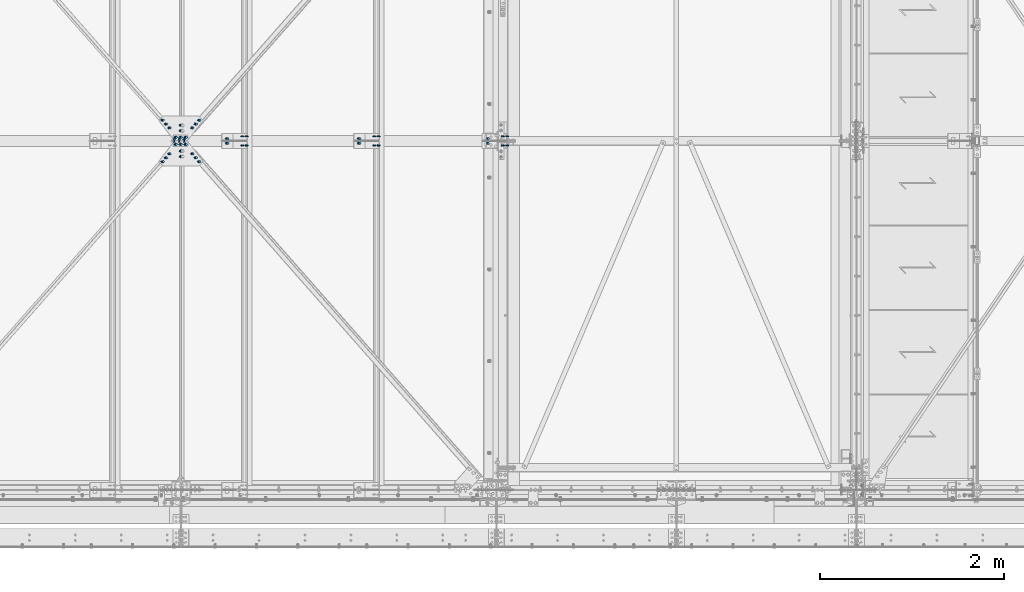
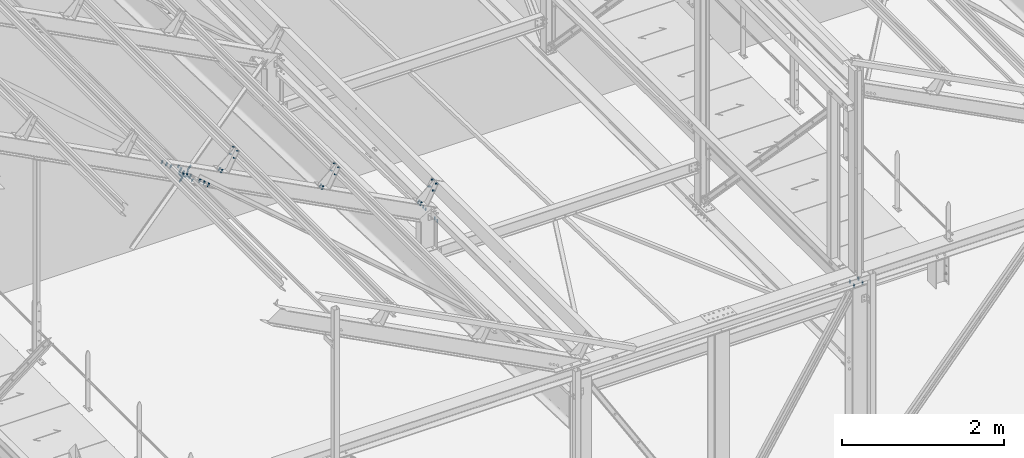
# One storey, part 163 of 362: 19 mechanical fasteners.
"""IFC2X3 building model written with IfcOpenShell, lengths in millimetres."""

from ifc_helpers import new_model, si_unit, frame, frame_2d, origin_with_axes, origin_2d_with_axis, place, context, subcontext, project, spatial, polyline, circle_curve, parameter, trimmed, segment, composite_curve, circle, outline, extrude, source, transform, mapped, material, type_object, element, save


model = new_model("IFC2X3")

# Units and contexts
model_context = context("Model", 3, precision=1e-05, world=origin_with_axes())
body_context = subcontext(model_context, "Body", "Model", "MODEL_VIEW")
ifc_project = project(units=[si_unit("LENGTHUNIT", "METRE", prefix="MILLI"), si_unit("AREAUNIT", "SQUARE_METRE"), si_unit("VOLUMEUNIT", "CUBIC_METRE"), si_unit("MASSUNIT", "GRAM", prefix="KILO"), si_unit("TIMEUNIT", "SECOND"), si_unit("PLANEANGLEUNIT", "RADIAN"), si_unit("SOLIDANGLEUNIT", "STERADIAN"), si_unit("THERMODYNAMICTEMPERATUREUNIT", "DEGREE_CELSIUS"), si_unit("LUMINOUSINTENSITYUNIT", "LUMEN")], contexts=[model_context])

# Site, building, storey
site_placement = place(None, origin_with_axes())
site = spatial("IfcSite", under=ifc_project, at=site_placement, Name="Undefined", CompositionType="ELEMENT")
building_placement = place(site_placement, origin_with_axes())
building = spatial("IfcBuilding", under=site, at=building_placement, Name="Undefined", CompositionType="ELEMENT")
storey_placement = place(building_placement, origin_with_axes())
storey = spatial("IfcBuildingStorey", under=building, at=storey_placement, Name="Undefined", CompositionType="ELEMENT", Elevation=0.0)

# Mechanical fasteners
ifc_material_1 = material(Name="8.8-SB-ZINGUE")
mechanical_fastener_type = type_object("IfcMechanicalFastenerType", Name="Bolt assembly")
shared_shape_1 = source(origin_with_axes(), body_context, "Body", "SweptSolid", [
    extrude(circle(Radius=7.0, at=origin_2d_with_axis()), frame((0.0, -0.100011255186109, 0.0), z_axis=(0.0, 1.0, 0.0), x_axis=(1.0, 0.0, 0.0)), (0.0, 0.0, 1.0), 3.1),
    extrude(circle(Radius=7.0, at=origin_2d_with_axis()), frame((0.0, -9.9, 0.0), z_axis=(0.0, 1.0, 0.0), x_axis=(1.0, 0.0, 0.0)), (0.0, 0.0, 1.0), 10.0),
    extrude(outline(polyline([(10.39230484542, 0.0), (5.19615242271, 9.00000000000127), (-5.19615242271, 9.00000000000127), (-10.39230484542, 0.0), (-5.19615242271, -9.00000000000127), (5.19615242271, -9.00000000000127), (10.39230484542, 0.0)])), frame((0.0, -17.92, 0.0), z_axis=(0.0, 1.0, 0.0), x_axis=(1.0, 0.0, 0.0)), (0.0, 0.0, 1.0), 7.92),
    extrude(circle(Radius=6.0, at=origin_2d_with_axis()), frame((0.0, -10.0000010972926, 0.0), z_axis=(0.0, 1.0, 0.0), x_axis=(1.0, 0.0, 0.0)), (0.0, 0.0, 1.0), 30.0),
    extrude(outline(polyline([(11.5008173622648, 0.0), (5.7504086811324, 9.96000000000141), (-5.7504086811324, 9.96000000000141), (-11.5008173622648, 0.0), (-5.7504086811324, -9.96000000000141), (5.7504086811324, -9.96000000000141), (11.5008173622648, 0.0)])), frame((0.0, 3.00000067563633, 0.0), z_axis=(0.0, 1.0, 0.0), x_axis=(1.0, 0.0, 0.0)), (0.0, 0.0, 1.0), 7.92),
])
mechanical_fastener_1_placement = place(storey_placement, frame((19620.3252333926, 3849.9999403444, 8812.98460901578), z_axis=(0.0, 1.0, 0.0), x_axis=(0.463528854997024, 6.99999093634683e-09, 0.886081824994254)))
element("IfcMechanicalFastener", 1, at=mechanical_fastener_1_placement, inside=storey, type_object=mechanical_fastener_type, material=ifc_material_1, Name="Bolt assembly", NominalDiameter=12.0, NominalLength=30.0, context=body_context, shape_type="MappedRepresentation", body=[
    mapped(shared_shape_1, transform((0.0, 0.0, 0.0))),
    mapped(shared_shape_1, transform((99.9999999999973, -1.63709046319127e-11, 7.73070496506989e-12))),
])
shared_shape_2 = source(origin_with_axes(), body_context, "Body", "SweptSolid", [
    extrude(circle(Radius=7.0, at=origin_2d_with_axis()), frame((0.0, -0.10007666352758, 0.0), z_axis=(0.0, 1.0, 0.0), x_axis=(1.0, 0.0, 0.0)), (0.0, 0.0, 1.0), 3.1),
    extrude(circle(Radius=7.0, at=origin_2d_with_axis()), frame((0.0, -9.9, 0.0), z_axis=(0.0, 1.0, 0.0), x_axis=(1.0, 0.0, 0.0)), (0.0, 0.0, 1.0), 10.0),
    extrude(outline(polyline([(10.39230484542, 0.0), (5.19615242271, 9.00000000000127), (-5.19615242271, 9.00000000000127), (-10.39230484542, 0.0), (-5.19615242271, -9.00000000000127), (5.19615242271, -9.00000000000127), (10.39230484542, 0.0)])), frame((0.0, -17.92, 0.0), z_axis=(0.0, 1.0, 0.0), x_axis=(1.0, 0.0, 0.0)), (0.0, 0.0, 1.0), 7.92),
    extrude(circle(Radius=6.0, at=origin_2d_with_axis()), frame((0.0, -10.0000010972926, 0.0), z_axis=(0.0, 1.0, 0.0), x_axis=(1.0, 0.0, 0.0)), (0.0, 0.0, 1.0), 30.0),
    extrude(outline(polyline([(11.5008173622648, 0.0), (5.7504086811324, 9.96000000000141), (-5.7504086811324, 9.96000000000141), (-11.5008173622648, 0.0), (-5.7504086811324, -9.96000000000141), (5.7504086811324, -9.96000000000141), (11.5008173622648, 0.0)])), frame((0.0, 3.00000067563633, 0.0), z_axis=(0.0, 1.0, 0.0), x_axis=(1.0, 0.0, 0.0)), (0.0, 0.0, 1.0), 7.92),
])
mechanical_fastener_2_placement = place(storey_placement, frame((19620.3252333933, 3750.0000596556, 8812.98460901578), z_axis=(0.0, 1.0, 0.0), x_axis=(0.463528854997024, 6.99999093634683e-09, 0.886081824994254)))
element("IfcMechanicalFastener", 2, at=mechanical_fastener_2_placement, inside=storey, type_object=mechanical_fastener_type, material=ifc_material_1, Name="Bolt assembly", NominalDiameter=12.0, NominalLength=30.0, context=body_context, shape_type="MappedRepresentation", body=[
    mapped(shared_shape_2, transform((0.0, 0.0, 0.0))),
    mapped(shared_shape_2, transform((99.9999999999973, -1.63709046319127e-11, 7.73070496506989e-12))),
])
ifc_material_2 = material(Name="#_SB-8.8-ZINGUE")
shared_shape_3 = source(origin_with_axes(), body_context, "Body", "SweptSolid", [
    extrude(circle(Radius=9.0, at=origin_2d_with_axis()), frame((0.0, -5.8999542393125, 0.0), z_axis=(0.0, 1.0, 0.0), x_axis=(1.0, 0.0, 0.0)), (0.0, 0.0, 1.0), 6.0),
    extrude(circle(Radius=9.0, at=origin_2d_with_axis()), frame((0.0, -0.100011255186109, 0.0), z_axis=(0.0, 1.0, 0.0), x_axis=(1.0, 0.0, 0.0)), (0.0, 0.0, 1.0), 6.1),
    extrude(outline(polyline([(13.85640646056, 0.0), (6.92820323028, 12.0000000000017), (-6.92820323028, 12.0000000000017), (-13.85640646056, 0.0), (-6.92820323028, -12.0000000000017), (6.92820323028, -12.0000000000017), (13.85640646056, 0.0)])), frame((0.0, -16.5599735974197, 0.0), z_axis=(0.0, 1.0, 0.0), x_axis=(1.0, 0.0, 0.0)), (0.0, 0.0, 1.0), 10.56),
    extrude(circle(Radius=8.0, at=origin_2d_with_axis()), frame((0.0, -5.9999542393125, 0.0), z_axis=(0.0, 1.0, 0.0), x_axis=(1.0, 0.0, 0.0)), (0.0, 0.0, 1.0), 40.0),
    extrude(outline(polyline([(15.3344231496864, 0.0), (7.6672115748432, 13.2800000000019), (-7.6672115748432, 13.2800000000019), (-15.3344231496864, 0.0), (-7.6672115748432, -13.2800000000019), (7.6672115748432, -13.2800000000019), (15.3344231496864, 0.0)])), frame((0.0, 6.0, 0.0), z_axis=(0.0, 1.0, 0.0), x_axis=(1.0, 0.0, 0.0)), (0.0, 0.0, 1.0), 10.56),
])
for number, where, z_axis, x_axis, name in (
    (3, (16239.1604463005, 3940.99054480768, 10209.3179633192), (-0.628485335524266, 0.704921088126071, 0.328774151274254), (0.624617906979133, 0.7092857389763, -0.326750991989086), "Bolt assembly"),
    (4, (15990.8396031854, 3940.99054268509, 10339.219907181), (-0.628485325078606, -0.704921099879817, 0.32877414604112), (-0.624617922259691, 0.70928572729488, 0.326750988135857), "Bolt assembly"),
    (5, (15990.8396913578, 3659.00955618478, 10339.2198632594), (0.628485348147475, -0.704921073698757, -0.328774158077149), (-0.624617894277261, -0.709285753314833, 0.326750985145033), "Bolt assembly"),
    (6, (16239.1603544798, 3659.00955876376, 10209.3180135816), (0.628485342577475, 0.704921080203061, -0.328774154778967), (0.624617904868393, -0.709285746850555, -0.326750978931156), "Bolt assembly"),
):
    element("IfcMechanicalFastener", number, at=place(storey_placement, frame(where, z_axis=z_axis, x_axis=x_axis)), inside=storey, type_object=mechanical_fastener_type, material=ifc_material_2, Name=name, NominalDiameter=16.0, NominalLength=40.0, context=body_context, shape_type="MappedRepresentation", body=[
        mapped(shared_shape_3, transform((0.0, 0.0, 0.0))),
        mapped(shared_shape_3, transform((60.0, 0.0, 0.0))),
        mapped(shared_shape_3, transform((120.0, 0.0, 0.0))),
    ])
shared_shape_4 = source(origin_with_axes(), body_context, "Body", "SweptSolid", [
    extrude(circle(Radius=9.0, at=origin_2d_with_axis()), frame((0.0, 0.1, 0.0), z_axis=(0.0, 1.0, 0.0), x_axis=(1.0, 0.0, 0.0)), (0.0, 0.0, 1.0), 6.0),
    extrude(circle(Radius=9.0, at=origin_2d_with_axis()), frame((0.0, 5.90002706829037, 0.0), z_axis=(0.0, 1.0, 0.0), x_axis=(1.0, 0.0, 0.0)), (0.0, 0.0, 1.0), 6.1),
    extrude(outline(polyline([(13.85640646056, 0.0), (6.92820323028, 12.0000000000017), (-6.92820323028, 12.0000000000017), (-13.85640646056, 0.0), (-6.92820323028, -12.0000000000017), (6.92820323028, -12.0000000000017), (13.85640646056, 0.0)])), frame((0.0, -10.5600019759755, 0.0), z_axis=(0.0, 1.0, 0.0), x_axis=(1.0, 0.0, 0.0)), (0.0, 0.0, 1.0), 10.56),
    extrude(circle(Radius=8.0, at=origin_2d_with_axis()), frame((0.0, 0.0, 0.0), z_axis=(0.0, 1.0, 0.0), x_axis=(1.0, 0.0, 0.0)), (0.0, 0.0, 1.0), 40.0),
    extrude(outline(polyline([(15.3344231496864, 0.0), (7.6672115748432, 13.2800000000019), (-7.6672115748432, 13.2800000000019), (-15.3344231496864, 0.0), (-7.6672115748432, -13.2800000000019), (7.6672115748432, -13.2800000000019), (15.3344231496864, 0.0)])), frame((0.0, 12.0000270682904, 0.0), z_axis=(0.0, 1.0, 0.0), x_axis=(1.0, 0.0, 0.0)), (0.0, 0.0, 1.0), 10.56),
])
mechanical_fastener_3_placement = place(storey_placement, frame((16114.9966925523, 3838.49994894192, 10274.2706792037), z_axis=(0.886081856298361, 3.500000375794e-08, -0.463528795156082), x_axis=(0.0, -1.0, 0.0)))
element("IfcMechanicalFastener", 7, at=mechanical_fastener_3_placement, inside=storey, type_object=mechanical_fastener_type, material=ifc_material_2, Name="Bolt assembly", NominalDiameter=16.0, NominalLength=40.0, context=body_context, shape_type="MappedRepresentation", body=[
    mapped(shared_shape_4, transform((0.0, 0.0, -60.0))),
    mapped(shared_shape_4, transform((0.0, 0.0, 0.0))),
    mapped(shared_shape_4, transform((0.0, 0.0, 60.0))),
])
shared_shape_5 = source(origin_with_axes(), body_context, "Body", "SweptSolid", [
    extrude(circle(Radius=7.0, at=origin_2d_with_axis()), frame((0.0, -0.100011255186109, 0.0), z_axis=(0.0, 1.0, 0.0), x_axis=(1.0, 0.0, 0.0)), (0.0, 0.0, 1.0), 1.6),
    extrude(circle(Radius=7.0, at=origin_2d_with_axis()), frame((0.0, -9.9, 0.0), z_axis=(0.0, 1.0, 0.0), x_axis=(1.0, 0.0, 0.0)), (0.0, 0.0, 1.0), 10.0),
    extrude(outline(polyline([(10.39230484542, 0.0), (5.19615242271, 9.00000000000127), (-5.19615242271, 9.00000000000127), (-10.39230484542, 0.0), (-5.19615242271, -9.00000000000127), (5.19615242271, -9.00000000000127), (10.39230484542, 0.0)])), frame((0.0, -17.92, 0.0), z_axis=(0.0, 1.0, 0.0), x_axis=(1.0, 0.0, 0.0)), (0.0, 0.0, 1.0), 7.92),
    extrude(circle(Radius=6.0, at=origin_2d_with_axis()), frame((0.0, -10.0000010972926, 0.0), z_axis=(0.0, 1.0, 0.0), x_axis=(1.0, 0.0, 0.0)), (0.0, 0.0, 1.0), 30.0),
    extrude(outline(polyline([(11.5008173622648, 0.0), (5.7504086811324, 9.96000000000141), (-5.7504086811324, 9.96000000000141), (-11.5008173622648, 0.0), (-5.7504086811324, -9.96000000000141), (5.7504086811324, -9.96000000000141), (11.5008173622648, 0.0)])), frame((0.0, 1.50001896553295, 0.0), z_axis=(0.0, 1.0, 0.0), x_axis=(1.0, 0.0, 0.0)), (0.0, 0.0, 1.0), 7.92),
])
for number, where, z_axis, x_axis, name in (
    (8, (18222.435375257, 3800.0000596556, 9543.12202798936), (0.0, 1.0, 0.0), (0.463528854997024, 6.99999093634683e-09, 0.886081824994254), "Bolt assembly"),
    (9, (16785.1353099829, 3800.0000596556, 10295.0043300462), (0.0, 1.0, 0.0), (0.463528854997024, 6.99999093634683e-09, 0.886081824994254), "Bolt assembly"),
):
    element("IfcMechanicalFastener", number, at=place(storey_placement, frame(where, z_axis=z_axis, x_axis=x_axis)), inside=storey, type_object=mechanical_fastener_type, material=ifc_material_1, Name=name, NominalDiameter=12.0, NominalLength=30.0, context=body_context, shape_type="MappedRepresentation", body=[
        mapped(shared_shape_5, transform((0.0, 0.0, -50.0))),
        mapped(shared_shape_5, transform((102.00000000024, -2.51020537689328e-10, -50.0))),
        mapped(shared_shape_5, transform((0.0, 0.0, 50.0))),
        mapped(shared_shape_5, transform((102.00000000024, -2.51020537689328e-10, 50.0))),
    ])
shared_shape_6 = source(origin_with_axes(), body_context, "Body", "SweptSolid", [
    extrude(circle(Radius=9.0, at=origin_2d_with_axis()), frame((0.0, -0.0999426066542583, 0.0), z_axis=(0.0, 1.0, 0.0), x_axis=(1.0, 0.0, 0.0)), (0.0, 0.0, 1.0), 9.9),
    extrude(circle(Radius=9.0, at=origin_2d_with_axis()), frame((0.0, -9.9, 0.0), z_axis=(0.0, 1.0, 0.0), x_axis=(1.0, 0.0, 0.0)), (0.0, 0.0, 1.0), 10.0),
    extrude(outline(polyline([(13.85640646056, 0.0), (6.92820323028, 12.0000000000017), (-6.92820323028, 12.0000000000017), (-13.85640646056, 0.0), (-6.92820323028, -12.0000000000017), (6.92820323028, -12.0000000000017), (13.85640646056, 0.0)])), frame((0.0, -20.5600000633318, 0.0), z_axis=(0.0, 1.0, 0.0), x_axis=(1.0, 0.0, 0.0)), (0.0, 0.0, 1.0), 10.56),
    extrude(circle(Radius=8.0, at=origin_2d_with_axis()), frame((0.0, -10.0000010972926, 0.0), z_axis=(0.0, 1.0, 0.0), x_axis=(1.0, 0.0, 0.0)), (0.0, 0.0, 1.0), 40.0),
    extrude(outline(polyline([(15.3344231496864, 0.0), (7.6672115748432, 13.2800000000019), (-7.6672115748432, 13.2800000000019), (-15.3344231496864, 0.0), (-7.6672115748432, -13.2800000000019), (7.6672115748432, -13.2800000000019), (15.3344231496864, 0.0)])), frame((0.0, 9.80008147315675, 0.0), z_axis=(0.0, 1.0, 0.0), x_axis=(1.0, 0.0, 0.0)), (0.0, 0.0, 1.0), 10.56),
])
mechanical_fastener_4_placement = place(storey_placement, frame((16617.3712831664, 3800.00003751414, 10146.8954622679), z_axis=(0.0, 1.0, 0.0), x_axis=(0.886081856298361, 3.500000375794e-08, -0.463528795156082)))
element("IfcMechanicalFastener", 10, at=mechanical_fastener_4_placement, inside=storey, type_object=mechanical_fastener_type, material=ifc_material_1, Name="Bolt assembly", NominalDiameter=16.0, NominalLength=40.0, context=body_context, shape_type="MappedRepresentation", body=[
    mapped(shared_shape_6, transform((0.0, 0.0, -25.0))),
    mapped(shared_shape_6, transform((0.0, 0.0, 25.0))),
])
shared_shape_7 = source(origin_with_axes(), body_context, "Body", "SweptSolid", [
    extrude(circle(Radius=9.0, at=origin_2d_with_axis()), frame((0.0, -0.0998569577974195, 0.0), z_axis=(0.0, 1.0, 0.0), x_axis=(1.0, 0.0, 0.0)), (0.0, 0.0, 1.0), 9.9),
    extrude(circle(Radius=9.0, at=origin_2d_with_axis()), frame((0.0, -9.9, 0.0), z_axis=(0.0, 1.0, 0.0), x_axis=(1.0, 0.0, 0.0)), (0.0, 0.0, 1.0), 10.0),
    extrude(outline(polyline([(13.85640646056, 0.0), (6.92820323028, 12.0000000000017), (-6.92820323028, 12.0000000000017), (-13.85640646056, 0.0), (-6.92820323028, -12.0000000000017), (6.92820323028, -12.0000000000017), (13.85640646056, 0.0)])), frame((0.0, -20.5600000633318, 0.0), z_axis=(0.0, 1.0, 0.0), x_axis=(1.0, 0.0, 0.0)), (0.0, 0.0, 1.0), 10.56),
    extrude(circle(Radius=8.0, at=origin_2d_with_axis()), frame((0.0, -10.0000010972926, 0.0), z_axis=(0.0, 1.0, 0.0), x_axis=(1.0, 0.0, 0.0)), (0.0, 0.0, 1.0), 40.0),
    extrude(outline(polyline([(15.3344231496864, 0.0), (7.6672115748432, 13.2800000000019), (-7.6672115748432, 13.2800000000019), (-15.3344231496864, 0.0), (-7.6672115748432, -13.2800000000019), (7.6672115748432, -13.2800000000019), (15.3344231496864, 0.0)])), frame((0.0, 9.80017144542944, 0.0), z_axis=(0.0, 1.0, 0.0), x_axis=(1.0, 0.0, 0.0)), (0.0, 0.0, 1.0), 10.56),
])
mechanical_fastener_5_placement = place(storey_placement, frame((18054.6713484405, 3800.00003751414, 9395.01316021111), z_axis=(0.0, 1.0, 0.0), x_axis=(0.886081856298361, 3.500000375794e-08, -0.463528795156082)))
element("IfcMechanicalFastener", 11, at=mechanical_fastener_5_placement, inside=storey, type_object=mechanical_fastener_type, material=ifc_material_1, Name="Bolt assembly", NominalDiameter=16.0, NominalLength=40.0, context=body_context, shape_type="MappedRepresentation", body=[
    mapped(shared_shape_7, transform((0.0, 0.0, -25.0))),
    mapped(shared_shape_7, transform((0.0, 0.0, 25.0))),
])
shared_shape_8 = source(origin_with_axes(), body_context, "Body", "SweptSolid", [
    extrude(circle(Radius=9.0, at=origin_2d_with_axis()), frame((0.0, -0.0997388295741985, 0.0), z_axis=(0.0, 1.0, 0.0), x_axis=(1.0, 0.0, 0.0)), (0.0, 0.0, 1.0), 9.9),
    extrude(circle(Radius=9.0, at=origin_2d_with_axis()), frame((0.0, -9.9, 0.0), z_axis=(0.0, 1.0, 0.0), x_axis=(1.0, 0.0, 0.0)), (0.0, 0.0, 1.0), 10.0),
    extrude(outline(polyline([(13.85640646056, 0.0), (6.92820323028, 12.0000000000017), (-6.92820323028, 12.0000000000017), (-13.85640646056, 0.0), (-6.92820323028, -12.0000000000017), (6.92820323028, -12.0000000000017), (13.85640646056, 0.0)])), frame((0.0, -20.5600000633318, 0.0), z_axis=(0.0, 1.0, 0.0), x_axis=(1.0, 0.0, 0.0)), (0.0, 0.0, 1.0), 10.56),
    extrude(circle(Radius=8.0, at=origin_2d_with_axis()), frame((0.0, -10.0000010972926, 0.0), z_axis=(0.0, 1.0, 0.0), x_axis=(1.0, 0.0, 0.0)), (0.0, 0.0, 1.0), 40.0),
    extrude(outline(polyline([(15.3344231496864, 0.0), (7.6672115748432, 13.2800000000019), (-7.6672115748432, 13.2800000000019), (-15.3344231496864, 0.0), (-7.6672115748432, -13.2800000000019), (7.6672115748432, -13.2800000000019), (15.3344231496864, 0.0)])), frame((0.0, 9.80025892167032, 0.0), z_axis=(0.0, 1.0, 0.0), x_axis=(1.0, 0.0, 0.0)), (0.0, 0.0, 1.0), 10.56),
])
mechanical_fastener_6_placement = place(storey_placement, frame((19452.0976781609, 3800.00003751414, 8663.98965918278), z_axis=(0.0, 1.0, 0.0), x_axis=(0.886081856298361, 3.500000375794e-08, -0.463528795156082)))
element("IfcMechanicalFastener", 12, at=mechanical_fastener_6_placement, inside=storey, type_object=mechanical_fastener_type, material=ifc_material_1, Name="Bolt assembly", NominalDiameter=16.0, NominalLength=40.0, context=body_context, shape_type="MappedRepresentation", body=[
    mapped(shared_shape_8, transform((0.0, 0.0, -25.0))),
    mapped(shared_shape_8, transform((0.0, 0.0, 25.0))),
])
shared_shape_9 = source(origin_with_axes(), body_context, "Body", "SweptSolid", [
    extrude(circle(Radius=9.0, at=origin_2d_with_axis()), frame((0.0, 5.90002706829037, 0.0), z_axis=(0.0, 1.0, 0.0), x_axis=(1.0, 0.0, 0.0)), (0.0, 0.0, 1.0), 6.1),
    extrude(circle(Radius=9.0, at=origin_2d_with_axis()), frame((0.0, 0.1, 0.0), z_axis=(0.0, 1.0, 0.0), x_axis=(1.0, 0.0, 0.0)), (0.0, 0.0, 1.0), 6.0),
    extrude(outline(polyline([(13.85640646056, 0.0), (6.92820323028, 12.0000000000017), (-6.92820323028, 12.0000000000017), (-13.85640646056, 0.0), (-6.92820323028, -12.0000000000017), (6.92820323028, -12.0000000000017), (13.85640646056, 0.0)])), frame((0.0, -10.5600019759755, 0.0), z_axis=(0.0, 1.0, 0.0), x_axis=(1.0, 0.0, 0.0)), (0.0, 0.0, 1.0), 10.56),
    extrude(circle(Radius=8.0, at=origin_2d_with_axis()), frame((0.0, 0.0, 0.0), z_axis=(0.0, 1.0, 0.0), x_axis=(1.0, 0.0, 0.0)), (0.0, 0.0, 1.0), 40.0),
    extrude(outline(polyline([(15.3344231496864, 0.0), (7.6672115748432, 13.2800000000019), (-7.6672115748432, 13.2800000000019), (-15.3344231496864, 0.0), (-7.6672115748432, -13.2800000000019), (7.6672115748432, -13.2800000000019), (15.3344231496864, 0.0)])), frame((0.0, 12.0000270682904, 0.0), z_axis=(0.0, 1.0, 0.0), x_axis=(1.0, 0.0, 0.0)), (0.0, 0.0, 1.0), 10.56),
])
mechanical_fastener_7_placement = place(storey_placement, frame((16114.9966944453, 3761.50015417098, 10274.2706788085), z_axis=(-0.886082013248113, 9.38091927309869e-07, 0.463528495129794), x_axis=(0.0, 1.0, 0.0)))
element("IfcMechanicalFastener", 13, at=mechanical_fastener_7_placement, inside=storey, type_object=mechanical_fastener_type, material=ifc_material_2, Name="Bolt assembly", NominalDiameter=16.0, NominalLength=40.0, context=body_context, shape_type="MappedRepresentation", body=[
    mapped(shared_shape_9, transform((0.0, 0.0, -60.0))),
    mapped(shared_shape_9, transform((0.0, 0.0, 0.0))),
    mapped(shared_shape_9, transform((0.0, 0.0, 60.0))),
])
shared_shape_10 = source(origin_with_axes(), body_context, "Body", "SweptSolid", [
    extrude(circle(Radius=9.0, at=origin_2d_with_axis()), frame((0.0, -3.89991628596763, 0.0), z_axis=(0.0, 1.0, 0.0), x_axis=(1.0, 0.0, 0.0)), (0.0, 0.0, 1.0), 4.0),
    extrude(circle(Radius=9.0, at=origin_2d_with_axis()), frame((0.0, -0.100011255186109, 0.0), z_axis=(0.0, 1.0, 0.0), x_axis=(1.0, 0.0, 0.0)), (0.0, 0.0, 1.0), 6.1),
    extrude(outline(polyline([(13.85640646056, 0.0), (6.92820323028, 12.0000000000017), (-6.92820323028, 12.0000000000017), (-13.85640646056, 0.0), (-6.92820323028, -12.0000000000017), (6.92820323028, -12.0000000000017), (13.85640646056, 0.0)])), frame((0.0, -14.55994727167, 0.0), z_axis=(0.0, 1.0, 0.0), x_axis=(1.0, 0.0, 0.0)), (0.0, 0.0, 1.0), 10.56),
    extrude(circle(Radius=8.0, at=origin_2d_with_axis()), frame((0.0, -3.99991628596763, 0.0), z_axis=(0.0, 1.0, 0.0), x_axis=(1.0, 0.0, 0.0)), (0.0, 0.0, 1.0), 30.0),
    extrude(outline(polyline([(15.3344231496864, 0.0), (7.6672115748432, 13.2800000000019), (-7.6672115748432, 13.2800000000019), (-15.3344231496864, 0.0), (-7.6672115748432, -13.2800000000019), (7.6672115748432, -13.2800000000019), (15.3344231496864, 0.0)])), frame((0.0, 6.0, 0.0), z_axis=(0.0, 1.0, 0.0), x_axis=(1.0, 0.0, 0.0)), (0.0, 0.0, 1.0), 10.56),
])
for number, where, z_axis, x_axis, name in (
    (14, (16114.9976296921, 3690.00160583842, 10274.2701901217), (0.886082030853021, 2.26635428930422e-05, -0.463528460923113), (2.01259999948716e-05, -0.999999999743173, -1.04209999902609e-05), "Bolt assembly"),
    (15, (16114.9976263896, 3909.99849724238, 10274.2701901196), (-0.886082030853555, 2.26369604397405e-05, 0.463528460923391), (2.00950000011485e-05, 0.999999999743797, -1.04209999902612e-05), "Bolt assembly"),
):
    element("IfcMechanicalFastener", number, at=place(storey_placement, frame(where, z_axis=z_axis, x_axis=x_axis)), inside=storey, type_object=mechanical_fastener_type, material=ifc_material_2, Name=name, NominalDiameter=16.0, NominalLength=30.0, context=body_context, shape_type="MappedRepresentation", body=[
        mapped(shared_shape_10, transform((0.0, 0.0, 0.0))),
        mapped(shared_shape_10, transform((60.0, 0.0, 0.0))),
    ])
shared_shape_11 = source(origin_with_axes(), body_context, "Body", "SweptSolid", [
    extrude(circle(Radius=9.0, at=origin_2d_with_axis()), frame((0.0, -3.10006822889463, 0.0), z_axis=(0.0, 1.0, 0.0), x_axis=(1.0, 0.0, 0.0)), (0.0, 0.0, 1.0), 6.2),
    extrude(circle(Radius=9.0, at=origin_2d_with_axis()), frame((0.0, 3.3998951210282, 0.0), z_axis=(0.0, 1.0, 0.0), x_axis=(1.0, 0.0, 0.0)), (0.0, 0.0, 1.0), 6.1),
    extrude(circle(Radius=9.0, at=origin_2d_with_axis()), frame((0.0, -9.39989811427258, 0.0), z_axis=(0.0, 1.0, 0.0), x_axis=(1.0, 0.0, 0.0)), (0.0, 0.0, 1.0), 6.0),
    extrude(outline(polyline([(13.85640646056, 0.0), (6.92820323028, 12.0000000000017), (-6.92820323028, 12.0000000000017), (-13.85640646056, 0.0), (-6.92820323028, -12.0000000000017), (6.92820323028, -12.0000000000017), (13.85640646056, 0.0)])), frame((0.0, -20.0598981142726, 0.0), z_axis=(0.0, 1.0, 0.0), x_axis=(1.0, 0.0, 0.0)), (0.0, 0.0, 1.0), 10.56),
    extrude(circle(Radius=8.0, at=origin_2d_with_axis()), frame((0.0, -9.49989811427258, 0.0), z_axis=(0.0, 1.0, 0.0), x_axis=(1.0, 0.0, 0.0)), (0.0, 0.0, 1.0), 40.0),
    extrude(outline(polyline([(15.3344231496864, 0.0), (7.6672115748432, 13.2800000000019), (-7.6672115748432, 13.2800000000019), (-15.3344231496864, 0.0), (-7.6672115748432, -13.2800000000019), (7.6672115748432, -13.2800000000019), (15.3344231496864, 0.0)])), frame((0.0, 9.49989413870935, 0.0), z_axis=(0.0, 1.0, 0.0), x_axis=(1.0, 0.0, 0.0)), (0.0, 0.0, 1.0), 10.56),
])
mechanical_fastener_8_placement = place(storey_placement, frame((16095.9919992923, 3800.00005438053, 10237.9412923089), z_axis=(-0.886081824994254, 0.0, 0.463528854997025), x_axis=(0.463528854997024, 6.99999093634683e-09, 0.886081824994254)))
element("IfcMechanicalFastener", 16, at=mechanical_fastener_8_placement, inside=storey, type_object=mechanical_fastener_type, material=ifc_material_2, Name="Bolt assembly", NominalDiameter=16.0, NominalLength=40.0, context=body_context, shape_type="MappedRepresentation", body=[
    mapped(shared_shape_11, transform((0.0, 0.0, -60.0))),
    mapped(shared_shape_11, transform((0.0, 0.0, 0.0))),
    mapped(shared_shape_11, transform((0.0, 0.0, 60.0))),
])
shared_shape_12 = source(origin_with_axes(), body_context, "Body", "SweptSolid", [
    extrude(circle(Radius=7.0, at=origin_2d_with_axis()), frame((0.0, -3.89999843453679, 0.0), z_axis=(0.0, 1.0, 0.0), x_axis=(1.0, 0.0, 0.0)), (0.0, 0.0, 1.0), 4.0),
    extrude(outline(composite_curve([segment(polyline([(-7.0, 7.0), (7.0, 7.0)]), True, "CONTINUOUS"), segment(trimmed(circle_curve(frame_2d((7.0, 0.0), x_axis=(0.0, 1.0)), 7.0), [parameter(0.0)], [parameter(3.14159265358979)], False, "PARAMETER"), True, "CONTINUOUS"), segment(polyline([(7.0, -7.0), (-7.0, -7.0)]), True, "CONTINUOUS"), segment(trimmed(circle_curve(frame_2d((-7.0, 0.0), x_axis=(0.0, -1.0)), 7.0), [parameter(0.0)], [parameter(3.14159265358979)], False, "PARAMETER"), True, "DISCONTINUOUS")], self_intersect=False)), frame((0.0, -0.100011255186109, 0.0), z_axis=(0.0, 1.0, 0.0), x_axis=(1.0, 0.0, 0.0)), (0.0, 0.0, 1.0), 10.1),
    extrude(outline(polyline([(10.39230484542, 0.0), (5.19615242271, 9.00000000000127), (-5.19615242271, 9.00000000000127), (-10.39230484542, 0.0), (-5.19615242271, -9.00000000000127), (5.19615242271, -9.00000000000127), (10.39230484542, 0.0)])), frame((0.0, -11.9199984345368, 0.0), z_axis=(0.0, 1.0, 0.0), x_axis=(1.0, 0.0, 0.0)), (0.0, 0.0, 1.0), 7.92),
    extrude(circle(Radius=6.0, at=origin_2d_with_axis()), frame((0.0, -3.99999923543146, 0.0), z_axis=(0.0, 1.0, 0.0), x_axis=(1.0, 0.0, 0.0)), (0.0, 0.0, 1.0), 40.0),
    extrude(circle(Radius=10.8, at=origin_2d_with_axis()), frame((0.0, 10.0000000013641, 0.0), z_axis=(0.0, 1.0, 0.0), x_axis=(1.0, 0.0, 0.0)), (0.0, 0.0, 1.0), 3.96),
    extrude(outline(polyline([(11.5008173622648, 0.0), (5.7504086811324, 9.96000000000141), (-5.7504086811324, 9.96000000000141), (-11.5008173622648, 0.0), (-5.7504086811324, -9.96000000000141), (5.7504086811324, -9.96000000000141), (11.5008173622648, 0.0)])), frame((0.0, 13.96, 0.0), z_axis=(0.0, 1.0, 0.0), x_axis=(1.0, 0.0, 0.0)), (0.0, 0.0, 1.0), 7.92),
])
mechanical_fastener_9_placement = place(storey_placement, frame((19599.9999999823, 3973.5, 8450.0), z_axis=(1.0, 0.0, 0.0), x_axis=(0.0, -1.0, 0.0)))
element("IfcMechanicalFastener", 17, at=mechanical_fastener_9_placement, inside=storey, type_object=mechanical_fastener_type, material=ifc_material_1, Name="Bolt assembly", NominalDiameter=12.0, NominalLength=40.0, context=body_context, shape_type="MappedRepresentation", body=[
    mapped(shared_shape_12, transform((0.0, 0.0, 0.0))),
    mapped(shared_shape_12, transform((60.0, 0.0, 0.0))),
])
shared_shape_13 = source(origin_with_axes(), body_context, "Body", "SweptSolid", [
    extrude(circle(Radius=7.0, at=origin_2d_with_axis()), frame((0.0, -3.89999843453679, 0.0), z_axis=(0.0, 1.0, 0.0), x_axis=(1.0, 0.0, 0.0)), (0.0, 0.0, 1.0), 4.0),
    extrude(outline(composite_curve([segment(polyline([(-7.0, 7.0), (7.0, 7.0)]), True, "CONTINUOUS"), segment(trimmed(circle_curve(frame_2d((7.0, 0.0), x_axis=(0.0, 1.0)), 7.0), [parameter(0.0)], [parameter(3.14159265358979)], False, "PARAMETER"), True, "CONTINUOUS"), segment(polyline([(7.0, -7.0), (-7.0, -7.0)]), True, "CONTINUOUS"), segment(trimmed(circle_curve(frame_2d((-7.0, 0.0), x_axis=(0.0, -1.0)), 7.0), [parameter(0.0)], [parameter(3.14159265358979)], False, "PARAMETER"), True, "DISCONTINUOUS")], self_intersect=False)), frame((0.0, -0.100011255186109, 0.0), z_axis=(0.0, 1.0, 0.0), x_axis=(1.0, 0.0, 0.0)), (0.0, 0.0, 1.0), 10.1),
    extrude(outline(polyline([(10.39230484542, 0.0), (5.19615242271, 9.00000000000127), (-5.19615242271, 9.00000000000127), (-10.39230484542, 0.0), (-5.19615242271, -9.00000000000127), (5.19615242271, -9.00000000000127), (10.39230484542, 0.0)])), frame((0.0, -11.9199984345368, 0.0), z_axis=(0.0, 1.0, 0.0), x_axis=(1.0, 0.0, 0.0)), (0.0, 0.0, 1.0), 7.92),
    extrude(circle(Radius=6.0, at=origin_2d_with_axis()), frame((0.0, -3.99999923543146, 0.0), z_axis=(0.0, 1.0, 0.0), x_axis=(1.0, 0.0, 0.0)), (0.0, 0.0, 1.0), 40.0),
    extrude(circle(Radius=10.8, at=origin_2d_with_axis()), frame((0.0, 10.0000000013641, 0.0), z_axis=(0.0, 1.0, 0.0), x_axis=(1.0, 0.0, 0.0)), (0.0, 0.0, 1.0), 3.96),
    extrude(outline(polyline([(11.5008173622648, 0.0), (5.7504086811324, 9.96000000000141), (-5.7504086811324, 9.96000000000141), (-11.5008173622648, 0.0), (-5.7504086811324, -9.96000000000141), (5.7504086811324, -9.96000000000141), (11.5008173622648, 0.0)])), frame((0.0, 13.96, 0.0), z_axis=(0.0, 1.0, 0.0), x_axis=(1.0, 0.0, 0.0)), (0.0, 0.0, 1.0), 7.92),
])
mechanical_fastener_10_placement = place(storey_placement, frame((19599.9999999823, 3626.5, 8450.0), z_axis=(-1.0, 0.0, 0.0), x_axis=(0.0, 1.0, 0.0)))
element("IfcMechanicalFastener", 18, at=mechanical_fastener_10_placement, inside=storey, type_object=mechanical_fastener_type, material=ifc_material_1, Name="Bolt assembly", NominalDiameter=12.0, NominalLength=40.0, context=body_context, shape_type="MappedRepresentation", body=[
    mapped(shared_shape_13, transform((0.0, 0.0, 0.0))),
    mapped(shared_shape_13, transform((60.0, 0.0, 0.0))),
])
shared_shape_14 = source(origin_with_axes(), body_context, "Body", "SweptSolid", [
    extrude(circle(Radius=9.0, at=origin_2d_with_axis()), frame((0.0, -0.103623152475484, 0.0), z_axis=(0.0, 1.0, 0.0), x_axis=(1.0, 0.0, 0.0)), (0.0, 0.0, 1.0), 10.1),
    extrude(circle(Radius=9.0, at=origin_2d_with_axis()), frame((0.0, -9.9, 0.0), z_axis=(0.0, 1.0, 0.0), x_axis=(1.0, 0.0, 0.0)), (0.0, 0.0, 1.0), 10.0),
    extrude(outline(polyline([(13.85640646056, 0.0), (6.92820323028, 12.0000000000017), (-6.92820323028, 12.0000000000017), (-13.85640646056, 0.0), (-6.92820323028, -12.0000000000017), (6.92820323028, -12.0000000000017), (13.85640646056, 0.0)])), frame((0.0, -20.5600000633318, 0.0), z_axis=(0.0, 1.0, 0.0), x_axis=(1.0, 0.0, 0.0)), (0.0, 0.0, 1.0), 10.56),
    extrude(circle(Radius=8.0, at=origin_2d_with_axis()), frame((0.0, -10.0000010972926, 0.0), z_axis=(0.0, 1.0, 0.0), x_axis=(1.0, 0.0, 0.0)), (0.0, 0.0, 1.0), 40.0),
    extrude(outline(polyline([(15.3344231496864, 0.0), (7.6672115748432, 13.2800000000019), (-7.6672115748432, 13.2800000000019), (-15.3344231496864, 0.0), (-7.6672115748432, -13.2800000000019), (7.6672115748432, -13.2800000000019), (15.3344231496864, 0.0)])), frame((0.0, 9.9963768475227, 0.0), z_axis=(0.0, 1.0, 0.0), x_axis=(1.0, 0.0, 0.0)), (0.0, 0.0, 1.0), 10.56),
])
mechanical_fastener_11_placement = place(storey_placement, frame((23530.0013904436, 0.0, 8359.99931429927), z_axis=(0.0, 1.0, 0.0), x_axis=(-1.0, 0.0, 0.0)))
element("IfcMechanicalFastener", 19, at=mechanical_fastener_11_placement, inside=storey, type_object=mechanical_fastener_type, material=ifc_material_1, Name="Bolt assembly", NominalDiameter=16.0, NominalLength=40.0, context=body_context, shape_type="MappedRepresentation", body=[
    mapped(shared_shape_14, transform((0.0, 0.0, -50.0))),
    mapped(shared_shape_14, transform((120.0, -4.36557456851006e-10, -50.0))),
    mapped(shared_shape_14, transform((0.0, 0.0, 50.0))),
    mapped(shared_shape_14, transform((120.0, -4.36557456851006e-10, 50.0))),
])

save(model, "model.ifc")
